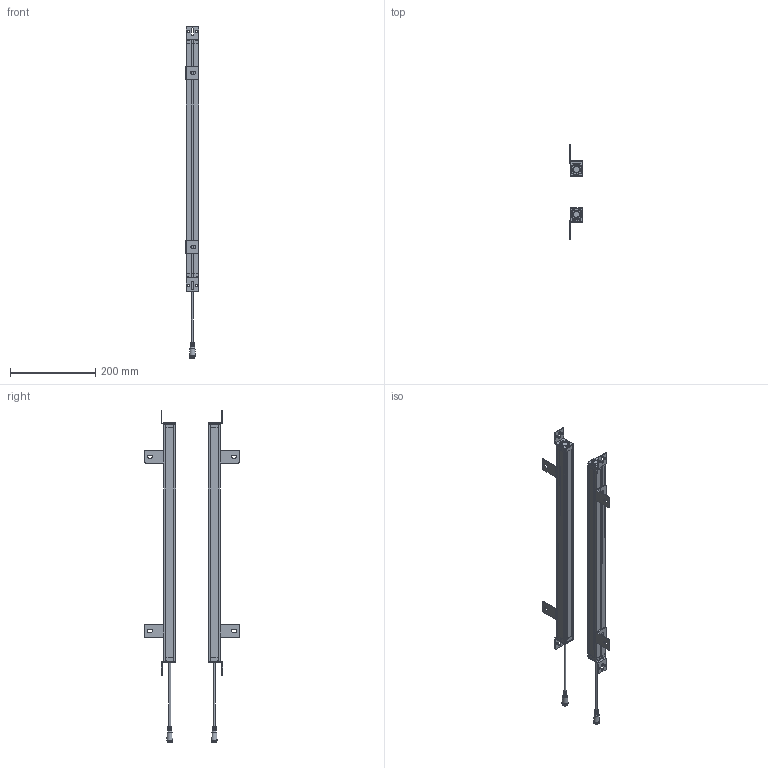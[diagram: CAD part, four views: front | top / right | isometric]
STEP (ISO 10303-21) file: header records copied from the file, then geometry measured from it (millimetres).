
FILE_DESCRIPTION(/* description */ (''),/* implementation_level */ '2;1');
FILE_NAME(/* name */ '5410（29x30）.stp',/* time_stamp */ '2023-05-04T18:27:00+08:00',/* author */ (''),/* organization */ (''),/* preprocessor_version */ 'ST-DEVELOPER v16.7',/* originating_system */ 'SIEMENS PLM Software NX 12.0',/* authorisation */ '');
FILE_SCHEMA (('AUTOMOTIVE_DESIGN { 1 0 10303 214 3 1 1 1 }'));
Products named in the file (1): 4810（29x30）_stp
Bounding box: 32.03 x 223.99 x 781 mm (x, y, z)
Volume: 373133.9 mm3; surface area: 387590.1 mm2
Topology: 34 solids, 34 shells, 1610 faces, 4267 edges, 2771 vertices
Faces by surface type: plane 750, cylinder 648, bspline 88, sphere 36, cone 36, torus 32, extrusion 20
Full cylindrical faces by diameter (mm): 1.533 x6, 4.4 x4, 9 x2, 12.5 x2
Entity records: 56427 total; most frequent: CARTESIAN_POINT 16064, DIRECTION 8330, ORIENTED_EDGE 8324, EDGE_CURVE 4162, AXIS2_PLACEMENT_3D 2918, VERTEX_POINT 2696, VECTOR 2494, LINE 2474
